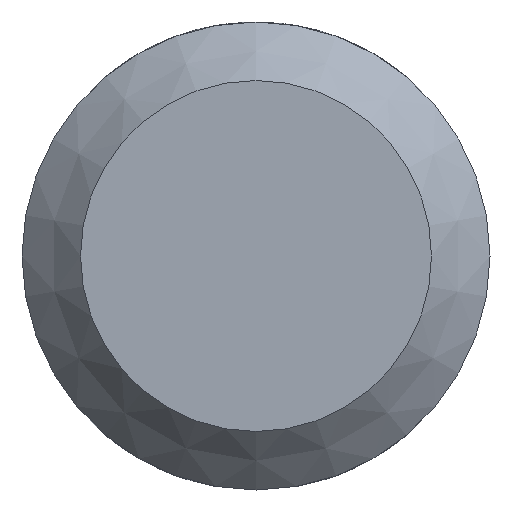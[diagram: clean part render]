
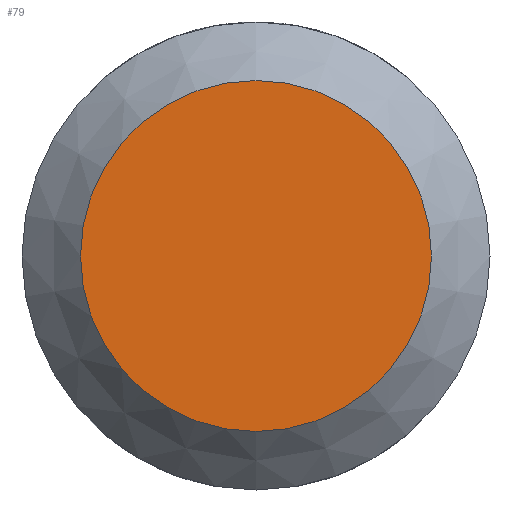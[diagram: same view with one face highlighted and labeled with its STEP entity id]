
A CAD part, front view. The second image highlights one B-rep face of the part: STEP entity #79.
In plain terms, the highlighted planar face has unit normal (0, -1, 0).
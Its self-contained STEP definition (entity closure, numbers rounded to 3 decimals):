
#79 = ADVANCED_FACE( '', ( #98 ), #99, .F. );
#98 = FACE_OUTER_BOUND( '', #134, .T. );
#99 = PLANE( '', #135 );
#134 = EDGE_LOOP( '', ( #184 ) );
#135 = AXIS2_PLACEMENT_3D( '', #185, #186, #187 );
#184 = ORIENTED_EDGE( '', *, *, #250, .T. );
#185 = CARTESIAN_POINT( '', ( 3., -988., 0. ) );
#186 = DIRECTION( '', ( 0., 1., 0. ) );
#187 = DIRECTION( '', ( 0., 0., 1. ) );
#250 = EDGE_CURVE( '', #275, #275, #276, .T. );
#275 = VERTEX_POINT( '', #395 );
#276 = CIRCLE( '', #396, 3. );
#395 = CARTESIAN_POINT( '', ( 0., -988., -3. ) );
#396 = AXIS2_PLACEMENT_3D( '', #450, #451, #452 );
#450 = CARTESIAN_POINT( '', ( 0., -988., 0. ) );
#451 = DIRECTION( '', ( 0., -1., 0. ) );
#452 = DIRECTION( '', ( 0., 0., -1. ) );
